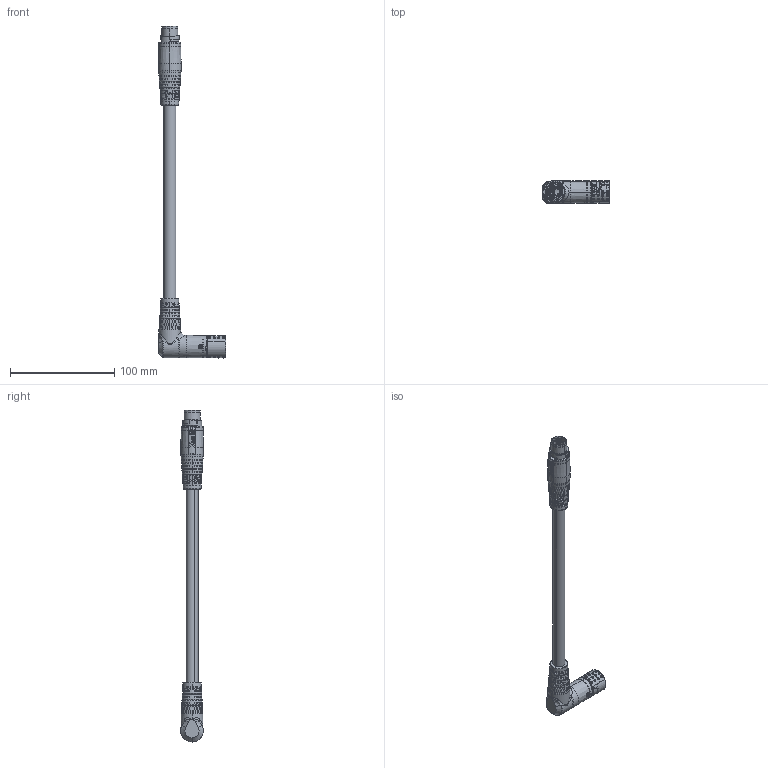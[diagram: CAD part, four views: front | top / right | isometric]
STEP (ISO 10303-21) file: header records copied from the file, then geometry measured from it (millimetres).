
FILE_DESCRIPTION (( 'STEP AP214' ), '1' );
FILE_NAME ('W-TEC 15K Sti-Bu-90°R 4x-6x.STEP', '2021-06-11T15:14:55', ( '' ), ( '' ), 'SwSTEP 2.0', 'SolidWorks 2021', '' );
FILE_SCHEMA (( 'AUTOMOTIVE_DESIGN' ));
Length unit declared in the file: millimetre
Products named in the file (1): W-TEC 15K Sti-Bu-90訌 4x-6x
Bounding box: 64.37 x 21.94 x 318.28 mm (x, y, z)
Surface area: 23934 mm2 (no closed solid volume)
Topology: 0 solids, 30 shells, 1700 faces, 4731 edges, 2980 vertices
Faces by surface type: bspline 689, plane 495, cylinder 390, cone 71, torus 51, sphere 4
Entity records: 106570 total; most frequent: CARTESIAN_POINT 51550, ORIENTED_EDGE 8913, DIRECTION 5565, EDGE_CURVE 4572, VERTEX_POINT 2980, AXIS2_PLACEMENT_3D 2115, B_SPLINE_CURVE_WITH_KNOTS 1941, EDGE_LOOP 1795
